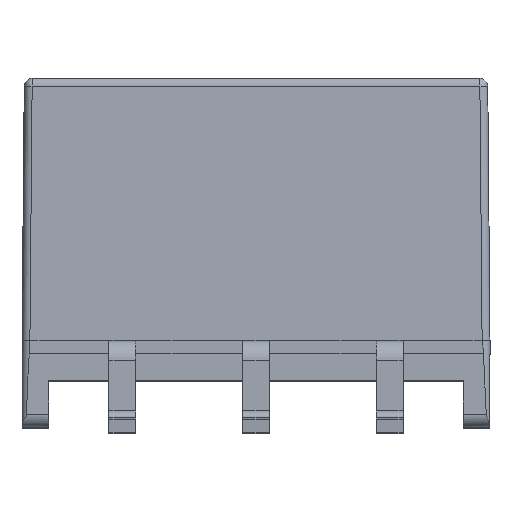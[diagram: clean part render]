
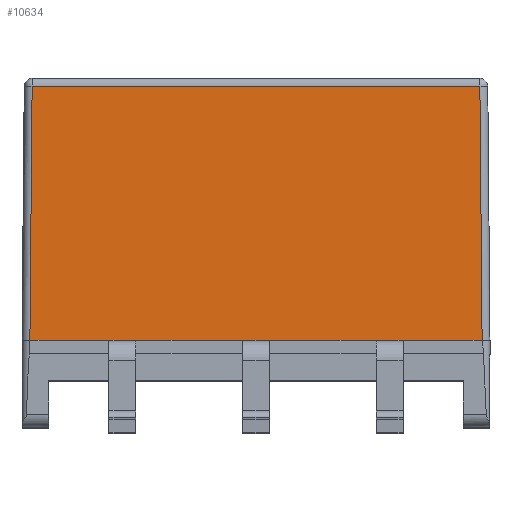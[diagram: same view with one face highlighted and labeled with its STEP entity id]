
A CAD part, top view. The second image highlights one B-rep face of the part: STEP entity #10634.
In plain terms, the highlighted planar face has unit normal (0, 0.009, 1).
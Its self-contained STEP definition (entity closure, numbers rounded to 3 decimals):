
#95 = VERTEX_POINT ( 'NONE', #4836 ) ;
#272 = LINE ( 'NONE', #10842, #4451 ) ;
#324 = ORIENTED_EDGE ( 'NONE', *, *, #13144, .T. ) ;
#353 = EDGE_CURVE ( 'NONE', #12003, #2110, #2284, .T. ) ;
#390 = LINE ( 'NONE', #1603, #8713 ) ;
#429 = EDGE_LOOP ( 'NONE', ( #11692, #616, #8515, #324, #11095, #7204, #2274, #1048, #10262, #2811 ) ) ;
#616 = ORIENTED_EDGE ( 'NONE', *, *, #2367, .T. ) ;
#985 = EDGE_CURVE ( 'NONE', #9875, #11323, #12232, .T. ) ;
#1048 = ORIENTED_EDGE ( 'NONE', *, *, #1497, .T. ) ;
#1497 = EDGE_CURVE ( 'NONE', #11323, #2741, #390, .T. ) ;
#1603 = CARTESIAN_POINT ( 'NONE',  ( 4.295, -0.001, 5.015 ) ) ;
#1805 = VECTOR ( 'NONE', #8767, 1000. ) ;
#2083 = CARTESIAN_POINT ( 'NONE',  ( 4.445, 0., 5.015 ) ) ;
#2110 = VERTEX_POINT ( 'NONE', #12338 ) ;
#2261 = AXIS2_PLACEMENT_3D ( 'NONE', #3699, #9956, #3624 ) ;
#2274 = ORIENTED_EDGE ( 'NONE', *, *, #985, .T. ) ;
#2284 = LINE ( 'NONE', #3136, #2397 ) ;
#2367 = EDGE_CURVE ( 'NONE', #8877, #12003, #272, .T. ) ;
#2397 = VECTOR ( 'NONE', #10665, 1000. ) ;
#2619 = LINE ( 'NONE', #4591, #12634 ) ;
#2741 = VERTEX_POINT ( 'NONE', #13208 ) ;
#2811 = ORIENTED_EDGE ( 'NONE', *, *, #5653, .T. ) ;
#2903 = CARTESIAN_POINT ( 'NONE',  ( -2.795, 0., 5.015 ) ) ;
#3078 = VERTEX_POINT ( 'NONE', #3540 ) ;
#3136 = CARTESIAN_POINT ( 'NONE',  ( 4.445, 0., 5.015 ) ) ;
#3493 = CARTESIAN_POINT ( 'NONE',  ( -4.294, 0.076, 5.014 ) ) ;
#3540 = CARTESIAN_POINT ( 'NONE',  ( -4.295, 0., 5.015 ) ) ;
#3562 = EDGE_CURVE ( 'NONE', #3078, #8877, #12889, .T. ) ;
#3624 = DIRECTION ( 'NONE',  ( 0., -1., 0.009 ) ) ;
#3699 = CARTESIAN_POINT ( 'NONE',  ( 4.445, 0., 5.015 ) ) ;
#3766 = VECTOR ( 'NONE', #3869, 1000. ) ;
#3869 = DIRECTION ( 'NONE',  ( 1., 0., 0. ) ) ;
#4135 = DIRECTION ( 'NONE',  ( 1., 0., 0. ) ) ;
#4184 = CARTESIAN_POINT ( 'NONE',  ( 2.795, 0., 5.015 ) ) ;
#4451 = VECTOR ( 'NONE', #5715, 1000. ) ;
#4591 = CARTESIAN_POINT ( 'NONE',  ( -4.402, 4.831, 4.973 ) ) ;
#4631 = DIRECTION ( 'NONE',  ( -0.009, 1., -0.009 ) ) ;
#4697 = CARTESIAN_POINT ( 'NONE',  ( 4.445, 0., 5.015 ) ) ;
#4747 = PLANE ( 'NONE',  #2261 ) ;
#4836 = CARTESIAN_POINT ( 'NONE',  ( 2.285, 0., 5.015 ) ) ;
#5309 = CARTESIAN_POINT ( 'NONE',  ( -2.285, 0., 5.015 ) ) ;
#5416 = CARTESIAN_POINT ( 'NONE',  ( 4.445, 0., 5.015 ) ) ;
#5458 = VECTOR ( 'NONE', #4135, 1000. ) ;
#5653 = EDGE_CURVE ( 'NONE', #9967, #3078, #7724, .T. ) ;
#5715 = DIRECTION ( 'NONE',  ( 1., 0., 0. ) ) ;
#6572 = CARTESIAN_POINT ( 'NONE',  ( 0.255, 0., 5.015 ) ) ;
#6918 = DIRECTION ( 'NONE',  ( -1., 0., 0. ) ) ;
#7204 = ORIENTED_EDGE ( 'NONE', *, *, #9533, .T. ) ;
#7724 = LINE ( 'NONE', #3493, #9454 ) ;
#7739 = VERTEX_POINT ( 'NONE', #6572 ) ;
#8237 = EDGE_CURVE ( 'NONE', #7739, #95, #9815, .T. ) ;
#8280 = CARTESIAN_POINT ( 'NONE',  ( 4.445, 0., 5.015 ) ) ;
#8425 = LINE ( 'NONE', #8280, #9685 ) ;
#8515 = ORIENTED_EDGE ( 'NONE', *, *, #353, .T. ) ;
#8600 = DIRECTION ( 'NONE',  ( 1., 0., 0. ) ) ;
#8713 = VECTOR ( 'NONE', #4631, 1000. ) ;
#8767 = DIRECTION ( 'NONE',  ( 1., 0., 0. ) ) ;
#8877 = VERTEX_POINT ( 'NONE', #2903 ) ;
#8914 = DIRECTION ( 'NONE',  ( -0.009, -1., 0.009 ) ) ;
#9239 = VECTOR ( 'NONE', #8600, 1000. ) ;
#9454 = VECTOR ( 'NONE', #8914, 1000. ) ;
#9476 = LINE ( 'NONE', #9608, #5458 ) ;
#9533 = EDGE_CURVE ( 'NONE', #95, #9875, #8425, .T. ) ;
#9608 = CARTESIAN_POINT ( 'NONE',  ( 4.445, 0., 5.015 ) ) ;
#9685 = VECTOR ( 'NONE', #11512, 1000. ) ;
#9815 = LINE ( 'NONE', #2083, #1805 ) ;
#9875 = VERTEX_POINT ( 'NONE', #4184 ) ;
#9936 = CARTESIAN_POINT ( 'NONE',  ( -4.253, 4.831, 4.973 ) ) ;
#9956 = DIRECTION ( 'NONE',  ( 0., 0.009, 1. ) ) ;
#9967 = VERTEX_POINT ( 'NONE', #9936 ) ;
#10262 = ORIENTED_EDGE ( 'NONE', *, *, #11054, .T. ) ;
#10634 = ADVANCED_FACE ( 'NONE', ( #12058 ), #4747, .T. ) ;
#10665 = DIRECTION ( 'NONE',  ( 1., 0., 0. ) ) ;
#10842 = CARTESIAN_POINT ( 'NONE',  ( 4.445, 0., 5.015 ) ) ;
#11054 = EDGE_CURVE ( 'NONE', #2741, #9967, #2619, .T. ) ;
#11095 = ORIENTED_EDGE ( 'NONE', *, *, #8237, .T. ) ;
#11323 = VERTEX_POINT ( 'NONE', #12960 ) ;
#11512 = DIRECTION ( 'NONE',  ( 1., 0., 0. ) ) ;
#11692 = ORIENTED_EDGE ( 'NONE', *, *, #3562, .T. ) ;
#12003 = VERTEX_POINT ( 'NONE', #5309 ) ;
#12058 = FACE_OUTER_BOUND ( 'NONE', #429, .T. ) ;
#12232 = LINE ( 'NONE', #4697, #3766 ) ;
#12338 = CARTESIAN_POINT ( 'NONE',  ( -0.255, 0., 5.015 ) ) ;
#12634 = VECTOR ( 'NONE', #6918, 1000. ) ;
#12889 = LINE ( 'NONE', #5416, #9239 ) ;
#12960 = CARTESIAN_POINT ( 'NONE',  ( 4.295, 0., 5.015 ) ) ;
#13144 = EDGE_CURVE ( 'NONE', #2110, #7739, #9476, .T. ) ;
#13208 = CARTESIAN_POINT ( 'NONE',  ( 4.253, 4.831, 4.973 ) ) ;
